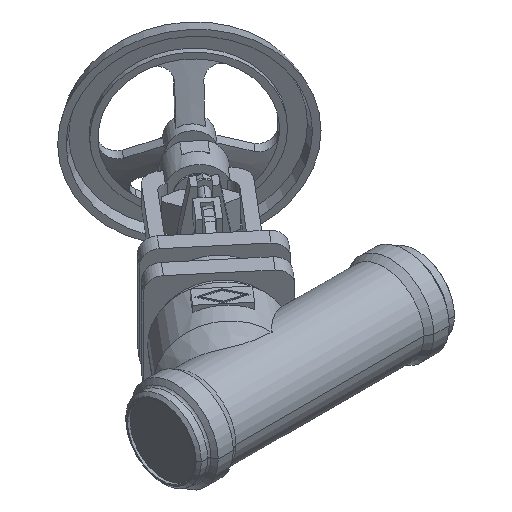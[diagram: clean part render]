
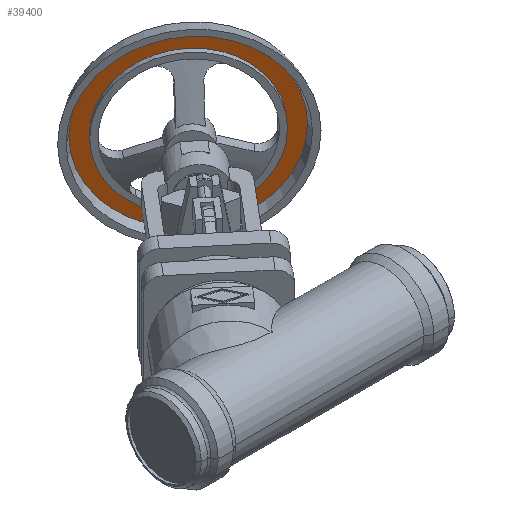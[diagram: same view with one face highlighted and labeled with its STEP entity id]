
A CAD part, isometric view. The second image highlights one B-rep face of the part: STEP entity #39400.
In plain terms, the highlighted planar face has unit normal (-0.643, -0.766, 0).
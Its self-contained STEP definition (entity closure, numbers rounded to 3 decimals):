
#38850=CARTESIAN_POINT('',(263.199,374.687,
0.));
#38860=VERTEX_POINT('',#38850);
#38890=CARTESIAN_POINT('',(341.365,309.099,0.));
#38900=DIRECTION('',(0.643,0.766,
0.));
#38910=DIRECTION('',(-0.766,0.643,
0.));
#38920=AXIS2_PLACEMENT_3D('',#38890,#38900,#38910);
#38930=CIRCLE('',#38920,102.038);
#38940=CARTESIAN_POINT('',(419.53,243.51,
0.));
#38950=VERTEX_POINT('',#38940);
#38960=EDGE_CURVE('',#38950,#38860,#38930,.T.);
#39150=CARTESIAN_POINT('',(269.917,369.051,
0.));
#39160=DIRECTION('',(-0.643,-0.766,0.));
#39170=DIRECTION('',(0.766,-0.643,
0.));
#39180=AXIS2_PLACEMENT_3D('',#39150,#39160,#39170);
#39190=PLANE('',#39180);
#39200=ORIENTED_EDGE('',*,*,#38960,.F.);
#39210=EDGE_CURVE('',#38860,#38950,#38930,.T.);
#39220=ORIENTED_EDGE('',*,*,#39210,.F.);
#39230=EDGE_LOOP('',(#39220,#39200));
#39240=FACE_OUTER_BOUND('',#39230,.T.);
#39250=CARTESIAN_POINT('',(341.365,309.099,0.));
#39260=DIRECTION('',(0.643,0.766,
0.));
#39270=DIRECTION('',(-0.766,0.643,
0.));
#39280=AXIS2_PLACEMENT_3D('',#39250,#39260,#39270);
#39290=CIRCLE('',#39280,84.5);
#39300=CARTESIAN_POINT('',(406.096,254.783,
0.));
#39310=VERTEX_POINT('',#39300);
#39320=CARTESIAN_POINT('',(276.634,363.414,
0.));
#39330=VERTEX_POINT('',#39320);
#39340=EDGE_CURVE('',#39310,#39330,#39290,.T.);
#39350=ORIENTED_EDGE('',*,*,#39340,.T.);
#39360=EDGE_CURVE('',#39330,#39310,#39290,.T.);
#39370=ORIENTED_EDGE('',*,*,#39360,.T.);
#39380=EDGE_LOOP('',(#39370,#39350));
#39390=FACE_BOUND('',#39380,.T.);
#39400=ADVANCED_FACE('',(#39240,#39390),#39190,.T.);
